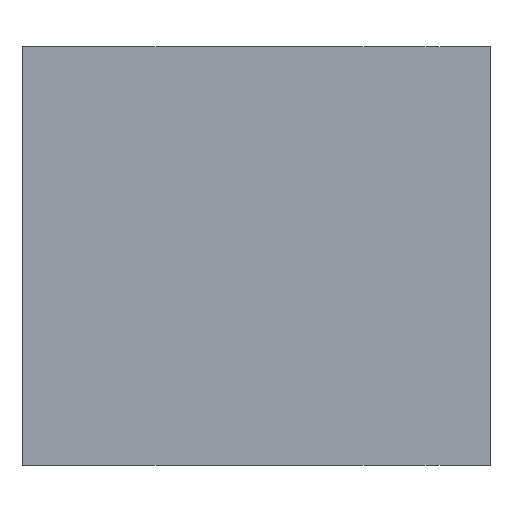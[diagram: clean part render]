
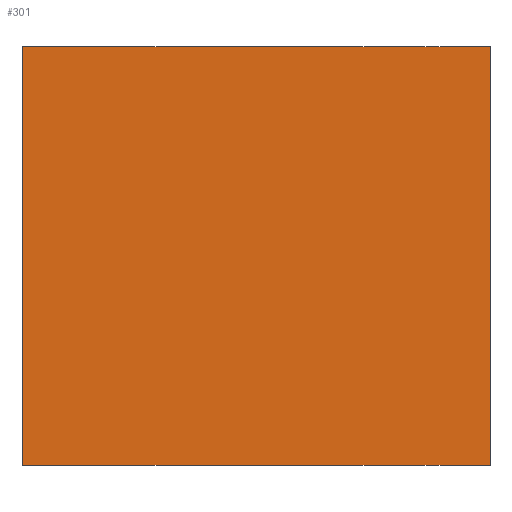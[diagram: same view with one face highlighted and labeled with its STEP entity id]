
A CAD part, front view. The second image highlights one B-rep face of the part: STEP entity #301.
In plain terms, the highlighted planar face has unit normal (-0.001, -1, 0).
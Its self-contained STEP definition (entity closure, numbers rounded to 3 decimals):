
#8 = CARTESIAN_POINT ( 'NONE',  ( 0.057, 0., -15. ) ) ;
#39 = EDGE_LOOP ( 'NONE', ( #1524, #611, #215, #648 ) ) ;
#64 = EDGE_CURVE ( 'NONE', #1366, #558, #1274, .T. ) ;
#86 = LINE ( 'NONE', #1058, #104 ) ;
#104 = VECTOR ( 'NONE', #1602, 1000. ) ;
#200 = CARTESIAN_POINT ( 'NONE',  ( 0., 0., -15. ) ) ;
#215 = ORIENTED_EDGE ( 'NONE', *, *, #522, .T. ) ;
#301 = ADVANCED_FACE ( 'NONE', ( #582 ), #1526, .T. ) ;
#433 = LINE ( 'NONE', #1667, #1212 ) ;
#437 = CARTESIAN_POINT ( 'NONE',  ( 0., 0., 0. ) ) ;
#522 = EDGE_CURVE ( 'NONE', #1502, #1342, #776, .T. ) ;
#558 = VERTEX_POINT ( 'NONE', #1571 ) ;
#563 = DIRECTION ( 'NONE',  ( 0., 0., 1. ) ) ;
#582 = FACE_OUTER_BOUND ( 'NONE', #39, .T. ) ;
#611 = ORIENTED_EDGE ( 'NONE', *, *, #850, .F. ) ;
#648 = ORIENTED_EDGE ( 'NONE', *, *, #1446, .T. ) ;
#776 = LINE ( 'NONE', #200, #1767 ) ;
#837 = DIRECTION ( 'NONE',  ( -0.001, -1., 0. ) ) ;
#850 = EDGE_CURVE ( 'NONE', #1502, #1366, #86, .T. ) ;
#910 = AXIS2_PLACEMENT_3D ( 'NONE', #1518, #837, #1375 ) ;
#946 = CARTESIAN_POINT ( 'NONE',  ( 0.057, 0., 0. ) ) ;
#991 = DIRECTION ( 'NONE',  ( 1., -0.001, 0. ) ) ;
#1058 = CARTESIAN_POINT ( 'NONE',  ( 0.057, 0., -15. ) ) ;
#1212 = VECTOR ( 'NONE', #563, 1000. ) ;
#1213 = CARTESIAN_POINT ( 'NONE',  ( 16.824, -0.015, -15. ) ) ;
#1274 = LINE ( 'NONE', #437, #1720 ) ;
#1323 = DIRECTION ( 'NONE',  ( 1., -0.001, 0. ) ) ;
#1342 = VERTEX_POINT ( 'NONE', #1213 ) ;
#1366 = VERTEX_POINT ( 'NONE', #946 ) ;
#1375 = DIRECTION ( 'NONE',  ( 1., -0.001, 0. ) ) ;
#1446 = EDGE_CURVE ( 'NONE', #1342, #558, #433, .T. ) ;
#1502 = VERTEX_POINT ( 'NONE', #8 ) ;
#1518 = CARTESIAN_POINT ( 'NONE',  ( 0., 0., -15. ) ) ;
#1524 = ORIENTED_EDGE ( 'NONE', *, *, #64, .F. ) ;
#1526 = PLANE ( 'NONE',  #910 ) ;
#1571 = CARTESIAN_POINT ( 'NONE',  ( 16.824, -0.015, 0. ) ) ;
#1602 = DIRECTION ( 'NONE',  ( 0., 0., 1. ) ) ;
#1667 = CARTESIAN_POINT ( 'NONE',  ( 16.824, -0.015, -15. ) ) ;
#1720 = VECTOR ( 'NONE', #991, 1000. ) ;
#1767 = VECTOR ( 'NONE', #1323, 1000. ) ;
